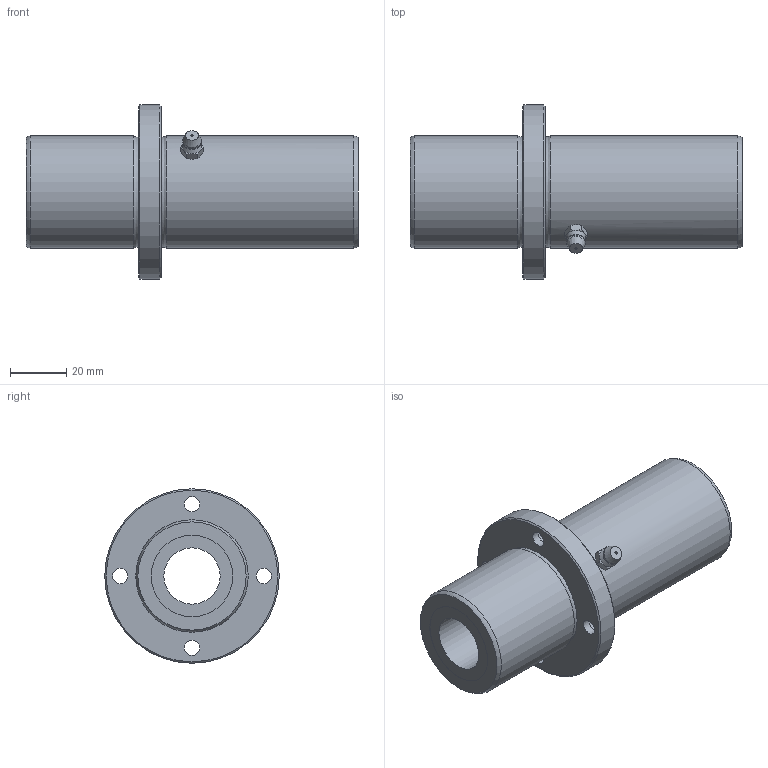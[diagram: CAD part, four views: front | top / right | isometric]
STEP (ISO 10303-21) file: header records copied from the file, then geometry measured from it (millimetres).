
FILE_DESCRIPTION((''),'2;1');
FILE_NAME('D:\製品 (図面)\カタログ用3D\リニアベアリング関連\STEP形式\LFLC\LFLC20.stp','2010-06-04T09:06:12',('Tsuchiya'),(''),'Autodesk Inventor 10','Autodesk Inventor 10','');
FILE_SCHEMA(('AUTOMOTIVE_DESIGN { 1 0 10303 214 1 1 1 1 }'));
Length unit declared in the file: millimetre
Products named in the file (1): LFLC20
Bounding box: 118 x 62 x 62 mm (x, y, z)
Volume: 123576.3 mm3; surface area: 28867.3 mm2
Topology: 1 solids, 1 shells, 59 faces, 117 edges, 70 vertices
Faces by surface type: plane 16, bspline 16, cone 15, cylinder 8, sphere 2, torus 2
Full cylindrical faces by diameter (mm): 20 x1, 29 x2, 40 x2, 62 x1
Entity records: 1803 total; most frequent: CARTESIAN_POINT 730, DIRECTION 210, ORIENTED_EDGE 184, EDGE_LOOP 104, AXIS2_PLACEMENT_3D 100, EDGE_CURVE 92, VERTEX_POINT 68, FACE_OUTER_BOUND 59
